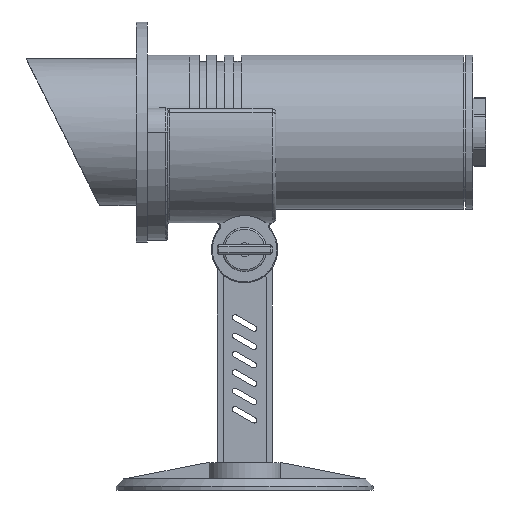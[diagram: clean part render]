
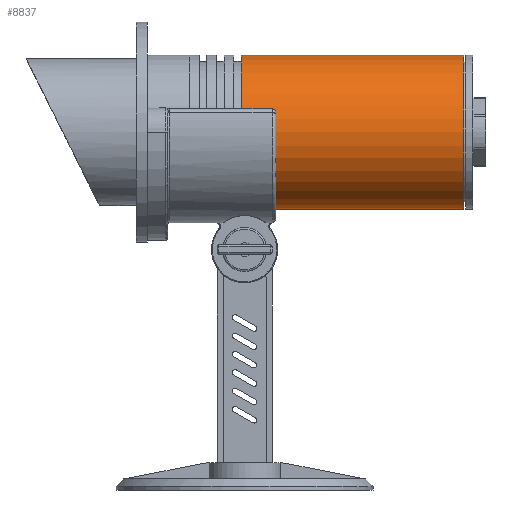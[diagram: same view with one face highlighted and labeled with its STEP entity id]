
A CAD part, left-side view. The second image highlights one B-rep face of the part: STEP entity #8837.
In plain terms, the highlighted cylindrical face has radius 21 mm (diameter 42 mm), a partial arc.
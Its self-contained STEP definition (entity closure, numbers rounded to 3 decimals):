
#7494=CARTESIAN_POINT('',(0.,0.,-19.6));
#7495=DIRECTION('',(0.,0.,1.));
#7496=DIRECTION('',(1.,0.,0.));
#7497=AXIS2_PLACEMENT_3D('',#7494,#7495,#7496);
#7514=DIRECTION('',(0.,0.,-1.));
#7515=VECTOR('',#7514,60.6);
#7516=CARTESIAN_POINT('',(21.,0.,41.));
#7517=LINE('',#7516,#7515);
#7518=CARTESIAN_POINT('',(0.,0.,41.));
#7519=DIRECTION('',(0.,0.,1.));
#7520=DIRECTION('',(1.,0.,0.));
#7521=AXIS2_PLACEMENT_3D('',#7518,#7519,#7520);
#7538=DIRECTION('',(0.,0.,-1.));
#7539=VECTOR('',#7538,60.6);
#7540=CARTESIAN_POINT('',(-21.,0.,41.));
#7541=LINE('',#7540,#7539);
#8465=CARTESIAN_POINT('',(21.,0.,41.));
#8466=CARTESIAN_POINT('',(-21.,0.,41.));
#8467=VERTEX_POINT('',#8465);
#8468=VERTEX_POINT('',#8466);
#8469=CARTESIAN_POINT('',(21.,0.,-19.6));
#8470=CARTESIAN_POINT('',(-21.,0.,-19.6));
#8471=VERTEX_POINT('',#8469);
#8472=VERTEX_POINT('',#8470);
#8823=CARTESIAN_POINT('',(0.,0.,41.));
#8824=DIRECTION('',(0.,0.,1.));
#8825=DIRECTION('',(1.,0.,0.));
#8826=AXIS2_PLACEMENT_3D('',#8823,#8824,#8825);
#8827=CYLINDRICAL_SURFACE('',#8826,21.);
#8829=ORIENTED_EDGE('',*,*,#8828,.T.);
#8831=ORIENTED_EDGE('',*,*,#8830,.T.);
#8832=ORIENTED_EDGE('',*,*,#8812,.F.);
#8834=ORIENTED_EDGE('',*,*,#8833,.F.);
#8835=EDGE_LOOP('',(#8829,#8831,#8832,#8834));
#8836=FACE_OUTER_BOUND('',#8835,.F.);
#8837=ADVANCED_FACE('',(#8836),#8827,.T.);
#7498=CIRCLE('',#7497,21.);
#7522=CIRCLE('',#7521,21.);
#8812=EDGE_CURVE('',#8471,#8472,#7498,.T.);
#8828=EDGE_CURVE('',#8467,#8468,#7522,.T.);
#8830=EDGE_CURVE('',#8468,#8472,#7541,.T.);
#8833=EDGE_CURVE('',#8467,#8471,#7517,.T.);
